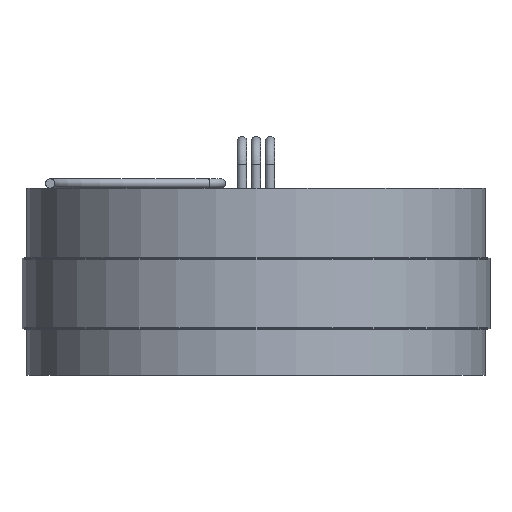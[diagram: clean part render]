
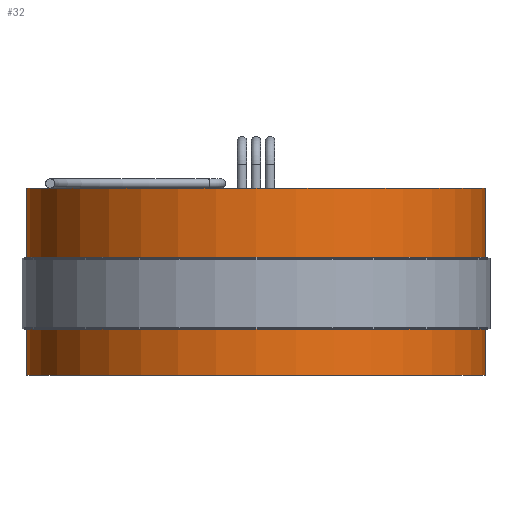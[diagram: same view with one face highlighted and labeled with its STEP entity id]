
A CAD part, front view. The second image highlights one B-rep face of the part: STEP entity #32.
In plain terms, the highlighted cylindrical face has radius 62.23 mm (diameter 124.46 mm), a full revolution.
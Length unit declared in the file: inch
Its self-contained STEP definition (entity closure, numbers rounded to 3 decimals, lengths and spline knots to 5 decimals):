
#32 = ADVANCED_FACE ( 'NONE', ( #552, #427 ), #223, .T. ) ;
#68 = EDGE_CURVE ( 'NONE', #295, #295, #1142, .T. ) ;
#70 = DIRECTION ( 'NONE',  ( 1., 0., 0. ) ) ;
#86 = AXIS2_PLACEMENT_3D ( 'NONE', #331, #895, #234 ) ;
#162 = EDGE_LOOP ( 'NONE', ( #567 ) ) ;
#223 = CYLINDRICAL_SURFACE ( 'NONE', #564, 2.45 ) ;
#234 = DIRECTION ( 'NONE',  ( 1., 0., 0. ) ) ;
#295 = VERTEX_POINT ( 'NONE', #711 ) ;
#328 = VERTEX_POINT ( 'NONE', #1379 ) ;
#331 = CARTESIAN_POINT ( 'NONE',  ( 0., 0., -0.875 ) ) ;
#427 = FACE_OUTER_BOUND ( 'NONE', #162, .T. ) ;
#449 = ORIENTED_EDGE ( 'NONE', *, *, #68, .T. ) ;
#500 = DIRECTION ( 'NONE',  ( 0., 0., 1. ) ) ;
#552 = FACE_OUTER_BOUND ( 'NONE', #602, .T. ) ;
#564 = AXIS2_PLACEMENT_3D ( 'NONE', #1365, #1235, #1025 ) ;
#567 = ORIENTED_EDGE ( 'NONE', *, *, #963, .F. ) ;
#602 = EDGE_LOOP ( 'NONE', ( #449 ) ) ;
#711 = CARTESIAN_POINT ( 'NONE',  ( 2.45, 0., -0.875 ) ) ;
#855 = AXIS2_PLACEMENT_3D ( 'NONE', #1061, #500, #70 ) ;
#895 = DIRECTION ( 'NONE',  ( 0., 0., 1. ) ) ;
#963 = EDGE_CURVE ( 'NONE', #328, #328, #1194, .T. ) ;
#1025 = DIRECTION ( 'NONE',  ( 1., 0., 0. ) ) ;
#1061 = CARTESIAN_POINT ( 'NONE',  ( 0., 0., 1.125 ) ) ;
#1142 = CIRCLE ( 'NONE', #86, 2.45 ) ;
#1194 = CIRCLE ( 'NONE', #855, 2.45 ) ;
#1235 = DIRECTION ( 'NONE',  ( 0., 0., 1. ) ) ;
#1365 = CARTESIAN_POINT ( 'NONE',  ( 0., 0., -0.875 ) ) ;
#1379 = CARTESIAN_POINT ( 'NONE',  ( 2.45, 0., 1.125 ) ) ;
